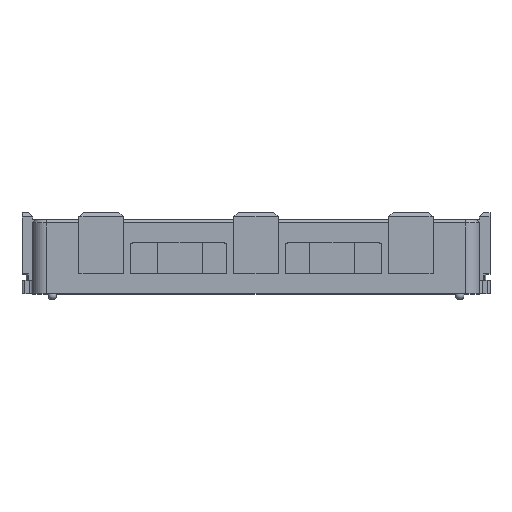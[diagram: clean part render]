
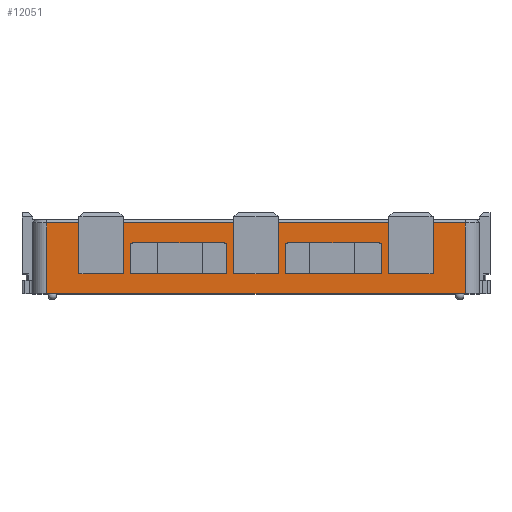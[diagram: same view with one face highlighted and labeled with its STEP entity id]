
A CAD part, top view. The second image highlights one B-rep face of the part: STEP entity #12051.
In plain terms, the highlighted planar face has unit normal (0, 0, 1).
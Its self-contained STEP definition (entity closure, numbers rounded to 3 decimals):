
#46=DIRECTION('',(1.,0.,0.));
#47=VECTOR('',#46,37.8);
#48=CARTESIAN_POINT('',(-18.9,0.,7.72));
#49=LINE('4290',#48,#47);
#865=DIRECTION('',(1.,0.,0.));
#866=VECTOR('',#865,4.);
#867=CARTESIAN_POINT('',(12.,1.8,7.72));
#868=LINE('5089',#867,#866);
#869=DIRECTION('',(0.,1.,0.));
#870=VECTOR('',#869,4.6);
#871=CARTESIAN_POINT('',(16.,1.8,7.72));
#872=LINE('5222',#871,#870);
#873=DIRECTION('',(0.,1.,0.));
#874=VECTOR('',#873,6.4);
#875=CARTESIAN_POINT('',(-18.9,0.,7.72));
#876=LINE('5273',#875,#874);
#877=DIRECTION('',(0.,1.,0.));
#878=VECTOR('',#877,4.6);
#879=CARTESIAN_POINT('',(-16.,1.8,7.72));
#880=LINE('5230',#879,#878);
#881=DIRECTION('',(1.,0.,0.));
#882=VECTOR('',#881,4.);
#883=CARTESIAN_POINT('',(-16.,1.8,7.72));
#884=LINE('5087',#883,#882);
#885=DIRECTION('',(0.,1.,0.));
#886=VECTOR('',#885,4.6);
#887=CARTESIAN_POINT('',(-12.,1.8,7.72));
#888=LINE('5229',#887,#886);
#889=DIRECTION('',(0.,1.,0.));
#890=VECTOR('',#889,4.6);
#891=CARTESIAN_POINT('',(-2.,1.8,7.72));
#892=LINE('5213',#891,#890);
#893=DIRECTION('',(1.,0.,0.));
#894=VECTOR('',#893,4.);
#895=CARTESIAN_POINT('',(-2.,1.8,7.72));
#896=LINE('5088',#895,#894);
#897=DIRECTION('',(0.,1.,0.));
#898=VECTOR('',#897,4.6);
#899=CARTESIAN_POINT('',(2.,1.8,7.72));
#900=LINE('5214',#899,#898);
#901=DIRECTION('',(0.,1.,0.));
#902=VECTOR('',#901,4.6);
#903=CARTESIAN_POINT('',(12.,1.8,7.72));
#904=LINE('5221',#903,#902);
#905=DIRECTION('',(0.,1.,0.));
#906=VECTOR('',#905,2.6);
#907=CARTESIAN_POINT('',(11.33,1.8,7.72));
#908=LINE('5181',#907,#906);
#909=CARTESIAN_POINT('',(11.13,4.4,7.72));
#910=DIRECTION('',(0.,0.,1.));
#911=DIRECTION('',(1.,0.,0.));
#912=AXIS2_PLACEMENT_3D('',#909,#910,#911);
#914=DIRECTION('',(-1.,0.,0.));
#915=VECTOR('',#914,8.25);
#916=CARTESIAN_POINT('',(11.13,4.6,7.72));
#917=LINE('4452',#916,#915);
#918=CARTESIAN_POINT('',(2.88,4.4,7.72));
#919=DIRECTION('',(0.,0.,1.));
#920=DIRECTION('',(0.,1.,0.));
#921=AXIS2_PLACEMENT_3D('',#918,#919,#920);
#923=DIRECTION('',(0.,1.,0.));
#924=VECTOR('',#923,2.6);
#925=CARTESIAN_POINT('',(2.68,1.8,7.72));
#926=LINE('5182',#925,#924);
#927=DIRECTION('',(0.,1.,0.));
#928=VECTOR('',#927,2.6);
#929=CARTESIAN_POINT('',(-2.68,1.8,7.72));
#930=LINE('5183',#929,#928);
#931=CARTESIAN_POINT('',(-2.88,4.4,7.72));
#932=DIRECTION('',(0.,0.,1.));
#933=DIRECTION('',(1.,0.,0.));
#934=AXIS2_PLACEMENT_3D('',#931,#932,#933);
#936=DIRECTION('',(-1.,0.,0.));
#937=VECTOR('',#936,8.25);
#938=CARTESIAN_POINT('',(-2.88,4.6,7.72));
#939=LINE('4455',#938,#937);
#940=CARTESIAN_POINT('',(-11.13,4.4,7.72));
#941=DIRECTION('',(0.,0.,1.));
#942=DIRECTION('',(0.,1.,0.));
#943=AXIS2_PLACEMENT_3D('',#940,#941,#942);
#945=DIRECTION('',(0.,1.,0.));
#946=VECTOR('',#945,2.6);
#947=CARTESIAN_POINT('',(-11.33,1.8,7.72));
#948=LINE('5184',#947,#946);
#981=DIRECTION('',(1.,0.,0.));
#982=VECTOR('',#981,10.);
#983=CARTESIAN_POINT('',(2.,6.4,7.72));
#984=LINE('4597',#983,#982);
#1005=DIRECTION('',(1.,0.,0.));
#1006=VECTOR('',#1005,2.9);
#1007=CARTESIAN_POINT('',(-18.9,6.4,7.72));
#1008=LINE('4635',#1007,#1006);
#1113=DIRECTION('',(1.,0.,0.));
#1114=VECTOR('',#1113,10.);
#1115=CARTESIAN_POINT('',(-12.,6.4,7.72));
#1116=LINE('4636',#1115,#1114);
#1933=DIRECTION('',(1.,0.,0.));
#1934=VECTOR('',#1933,8.65);
#1935=CARTESIAN_POINT('',(-11.33,1.8,7.72));
#1936=LINE('5129',#1935,#1934);
#3316=DIRECTION('',(1.,0.,0.));
#3317=VECTOR('',#3316,8.65);
#3318=CARTESIAN_POINT('',(2.68,1.8,7.72));
#3319=LINE('5130',#3318,#3317);
#4792=DIRECTION('',(0.,1.,0.));
#4793=VECTOR('',#4792,6.4);
#4794=CARTESIAN_POINT('',(18.9,0.,7.72));
#4795=LINE('5274',#4794,#4793);
#5316=DIRECTION('',(1.,0.,0.));
#5317=VECTOR('',#5316,2.9);
#5318=CARTESIAN_POINT('',(16.,6.4,7.72));
#5319=LINE('4598',#5318,#5317);
#8738=CARTESIAN_POINT('',(-18.9,0.,7.72));
#8740=VERTEX_POINT('',#8738);
#8741=CARTESIAN_POINT('',(18.9,0.,7.72));
#8742=VERTEX_POINT('',#8741);
#9013=CARTESIAN_POINT('',(11.33,4.4,7.72));
#9014=CARTESIAN_POINT('',(11.13,4.6,7.72));
#9015=VERTEX_POINT('',#9013);
#9016=VERTEX_POINT('',#9014);
#9017=CARTESIAN_POINT('',(2.88,4.6,7.72));
#9018=VERTEX_POINT('',#9017);
#9019=CARTESIAN_POINT('',(2.68,4.4,7.72));
#9020=VERTEX_POINT('',#9019);
#9021=CARTESIAN_POINT('',(-2.68,4.4,7.72));
#9022=CARTESIAN_POINT('',(-2.88,4.6,7.72));
#9023=VERTEX_POINT('',#9021);
#9024=VERTEX_POINT('',#9022);
#9025=CARTESIAN_POINT('',(-11.13,4.6,7.72));
#9026=VERTEX_POINT('',#9025);
#9027=CARTESIAN_POINT('',(-11.33,4.4,7.72));
#9028=VERTEX_POINT('',#9027);
#9130=CARTESIAN_POINT('',(-18.9,6.4,7.72));
#9132=VERTEX_POINT('',#9130);
#9153=CARTESIAN_POINT('',(18.9,6.4,7.72));
#9155=VERTEX_POINT('',#9153);
#9198=CARTESIAN_POINT('',(-2.,6.4,7.72));
#9200=VERTEX_POINT('',#9198);
#9202=CARTESIAN_POINT('',(2.,6.4,7.72));
#9204=VERTEX_POINT('',#9202);
#9261=CARTESIAN_POINT('',(12.,6.4,7.72));
#9262=VERTEX_POINT('',#9261);
#9263=CARTESIAN_POINT('',(16.,6.4,7.72));
#9264=VERTEX_POINT('',#9263);
#9317=CARTESIAN_POINT('',(-16.,6.4,7.72));
#9318=VERTEX_POINT('',#9317);
#9319=CARTESIAN_POINT('',(-12.,6.4,7.72));
#9320=VERTEX_POINT('',#9319);
#9941=CARTESIAN_POINT('',(11.33,1.8,7.72));
#9942=VERTEX_POINT('',#9941);
#9945=CARTESIAN_POINT('',(2.68,1.8,7.72));
#9946=VERTEX_POINT('',#9945);
#9949=CARTESIAN_POINT('',(-2.68,1.8,7.72));
#9950=VERTEX_POINT('',#9949);
#9953=CARTESIAN_POINT('',(-11.33,1.8,7.72));
#9954=VERTEX_POINT('',#9953);
#9973=CARTESIAN_POINT('',(-16.,1.8,7.72));
#9974=CARTESIAN_POINT('',(-12.,1.8,7.72));
#9975=VERTEX_POINT('',#9973);
#9976=VERTEX_POINT('',#9974);
#9977=CARTESIAN_POINT('',(-2.,1.8,7.72));
#9978=CARTESIAN_POINT('',(2.,1.8,7.72));
#9979=VERTEX_POINT('',#9977);
#9980=VERTEX_POINT('',#9978);
#9981=CARTESIAN_POINT('',(12.,1.8,7.72));
#9982=CARTESIAN_POINT('',(16.,1.8,7.72));
#9983=VERTEX_POINT('',#9981);
#9984=VERTEX_POINT('',#9982);
#11986=CARTESIAN_POINT('',(-18.9,0.,7.72));
#11987=DIRECTION('',(0.,0.,1.));
#11988=DIRECTION('',(1.,0.,0.));
#11989=AXIS2_PLACEMENT_3D('',#11986,#11987,#11988);
#11990=PLANE('3578',#11989);
#11992=ORIENTED_EDGE('5089',*,*,#11991,.T.);
#11993=ORIENTED_EDGE('5222',*,*,#11970,.T.);
#11995=ORIENTED_EDGE('4598',*,*,#11994,.T.);
#11997=ORIENTED_EDGE('5274',*,*,#11996,.F.);
#11998=ORIENTED_EDGE('4290',*,*,#11079,.F.);
#12000=ORIENTED_EDGE('5273',*,*,#11999,.T.);
#12002=ORIENTED_EDGE('4635',*,*,#12001,.T.);
#12004=ORIENTED_EDGE('5230',*,*,#12003,.F.);
#12006=ORIENTED_EDGE('5087',*,*,#12005,.T.);
#12008=ORIENTED_EDGE('5229',*,*,#12007,.T.);
#12010=ORIENTED_EDGE('4636',*,*,#12009,.T.);
#12012=ORIENTED_EDGE('5213',*,*,#12011,.F.);
#12014=ORIENTED_EDGE('5088',*,*,#12013,.T.);
#12016=ORIENTED_EDGE('5214',*,*,#12015,.T.);
#12018=ORIENTED_EDGE('4597',*,*,#12017,.T.);
#12020=ORIENTED_EDGE('5221',*,*,#12019,.F.);
#12021=EDGE_LOOP('3578',(#11992,#11993,#11995,#11997,#11998,#12000,#12002,
#12004,#12006,#12008,#12010,#12012,#12014,#12016,#12018,#12020));
#12022=FACE_OUTER_BOUND('3578',#12021,.F.);
#12024=ORIENTED_EDGE('5130',*,*,#12023,.T.);
#12026=ORIENTED_EDGE('5181',*,*,#12025,.T.);
#12028=ORIENTED_EDGE('4451',*,*,#12027,.T.);
#12030=ORIENTED_EDGE('4452',*,*,#12029,.T.);
#12032=ORIENTED_EDGE('4453',*,*,#12031,.T.);
#12034=ORIENTED_EDGE('5182',*,*,#12033,.F.);
#12035=EDGE_LOOP('3578',(#12024,#12026,#12028,#12030,#12032,#12034));
#12036=FACE_BOUND('3578',#12035,.F.);
#12038=ORIENTED_EDGE('5129',*,*,#12037,.T.);
#12040=ORIENTED_EDGE('5183',*,*,#12039,.T.);
#12042=ORIENTED_EDGE('4454',*,*,#12041,.T.);
#12044=ORIENTED_EDGE('4455',*,*,#12043,.T.);
#12046=ORIENTED_EDGE('4456',*,*,#12045,.T.);
#12048=ORIENTED_EDGE('5184',*,*,#12047,.F.);
#12049=EDGE_LOOP('3578',(#12038,#12040,#12042,#12044,#12046,#12048));
#12050=FACE_BOUND('3578',#12049,.F.);
#12051=ADVANCED_FACE('3578',(#12022,#12036,#12050),#11990,.T.);
#913=CIRCLE('4451',#912,0.2);
#922=CIRCLE('4453',#921,0.2);
#935=CIRCLE('4454',#934,0.2);
#944=CIRCLE('4456',#943,0.2);
#11079=EDGE_CURVE('4290',#8740,#8742,#49,.T.);
#11970=EDGE_CURVE('5222',#9984,#9264,#872,.T.);
#11991=EDGE_CURVE('5089',#9983,#9984,#868,.T.);
#11994=EDGE_CURVE('4598',#9264,#9155,#5319,.T.);
#11996=EDGE_CURVE('5274',#8742,#9155,#4795,.T.);
#11999=EDGE_CURVE('5273',#8740,#9132,#876,.T.);
#12001=EDGE_CURVE('4635',#9132,#9318,#1008,.T.);
#12003=EDGE_CURVE('5230',#9975,#9318,#880,.T.);
#12005=EDGE_CURVE('5087',#9975,#9976,#884,.T.);
#12007=EDGE_CURVE('5229',#9976,#9320,#888,.T.);
#12009=EDGE_CURVE('4636',#9320,#9200,#1116,.T.);
#12011=EDGE_CURVE('5213',#9979,#9200,#892,.T.);
#12013=EDGE_CURVE('5088',#9979,#9980,#896,.T.);
#12015=EDGE_CURVE('5214',#9980,#9204,#900,.T.);
#12017=EDGE_CURVE('4597',#9204,#9262,#984,.T.);
#12019=EDGE_CURVE('5221',#9983,#9262,#904,.T.);
#12023=EDGE_CURVE('5130',#9946,#9942,#3319,.T.);
#12025=EDGE_CURVE('5181',#9942,#9015,#908,.T.);
#12027=EDGE_CURVE('4451',#9015,#9016,#913,.T.);
#12029=EDGE_CURVE('4452',#9016,#9018,#917,.T.);
#12031=EDGE_CURVE('4453',#9018,#9020,#922,.T.);
#12033=EDGE_CURVE('5182',#9946,#9020,#926,.T.);
#12037=EDGE_CURVE('5129',#9954,#9950,#1936,.T.);
#12039=EDGE_CURVE('5183',#9950,#9023,#930,.T.);
#12041=EDGE_CURVE('4454',#9023,#9024,#935,.T.);
#12043=EDGE_CURVE('4455',#9024,#9026,#939,.T.);
#12045=EDGE_CURVE('4456',#9026,#9028,#944,.T.);
#12047=EDGE_CURVE('5184',#9954,#9028,#948,.T.);
